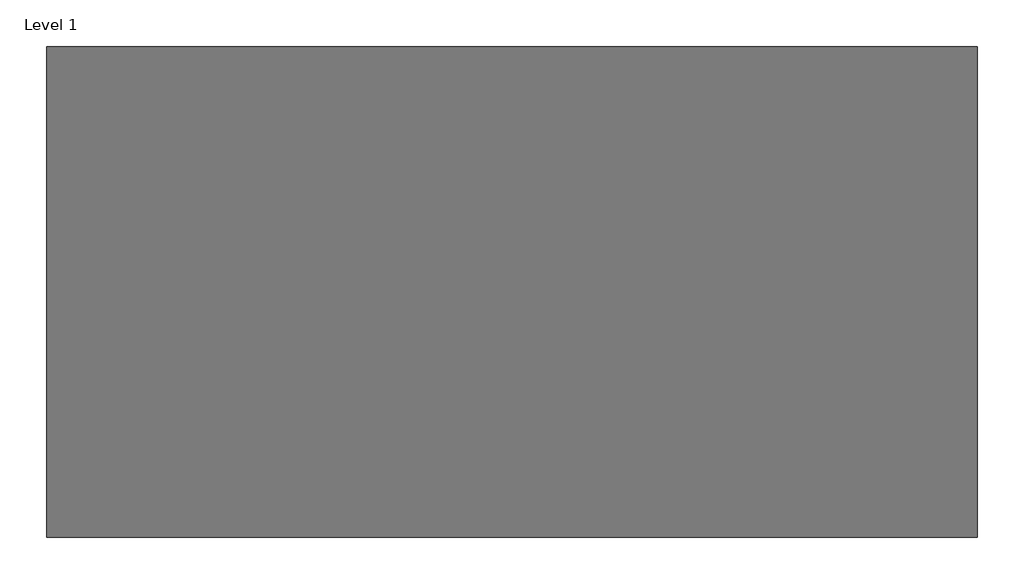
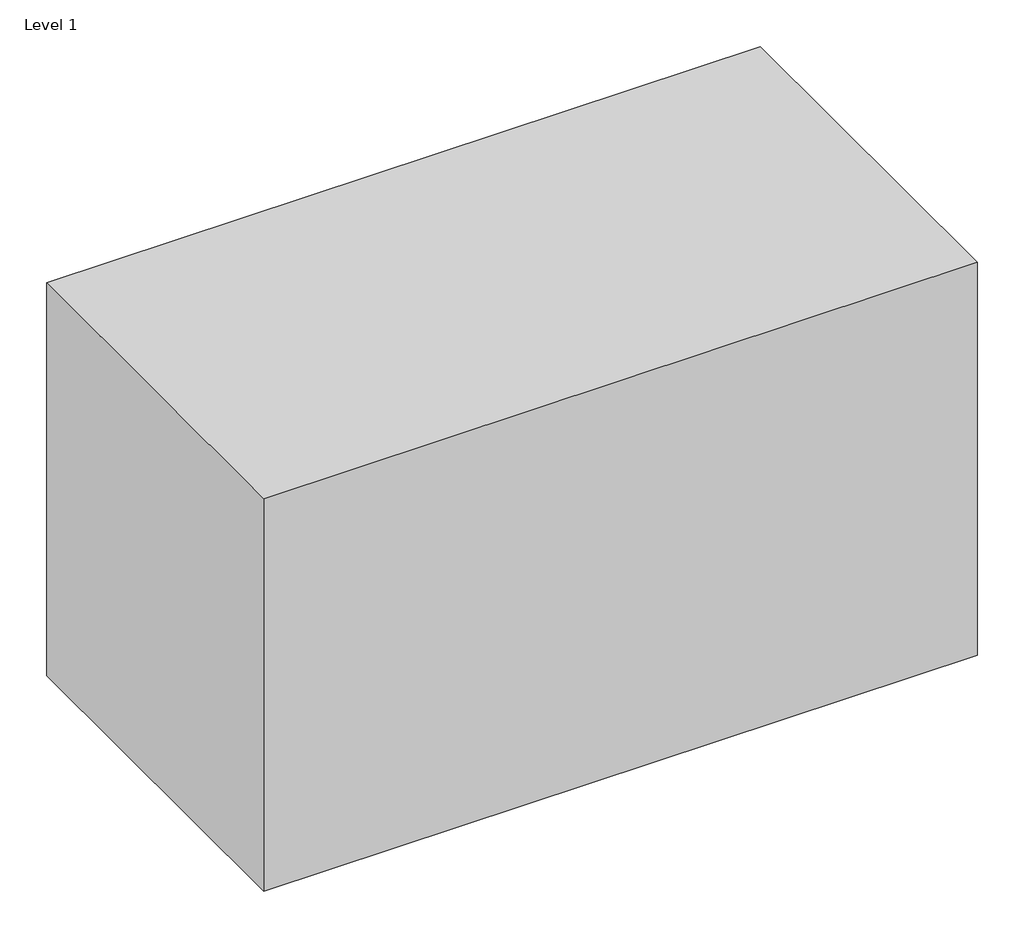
# One storey: 1 proxy.
"""IFC4 building model written with IfcOpenShell, lengths in millimetres."""

from ifc_helpers import new_model, si_unit, origin, origin_with_axes, place, context, project, spatial, polyline, outline, extrude, element, save

model = new_model("IFC4")

# Units and contexts
model_context = context("Model", 3, world=origin())
ifc_project = project(units=[si_unit("LENGTHUNIT", "METRE", prefix="MILLI")], contexts=[model_context])

# Site, building, storey
site = spatial("IfcSite", under=ifc_project)
building = spatial("IfcBuilding", under=site)
storey = spatial("IfcBuildingStorey", under=building, Name="Level 1", Elevation=0.0)

# Proxy
placement = place(None, origin())
element("IfcBuildingElementProxy", 1, Name="Mass 1 : Mass 1", ObjectType="Mass 1 : Mass 1", at=placement, inside=storey, context=model_context, shape_type="SweptSolid", body=[
    extrude(outline(polyline([(10243.86091, 8334.5716666), (-2380.5660902, 8334.5716666), (-2380.5660902, 14987.0199662), (10243.86091, 14987.0199662), (10243.86091, 8334.5716666)])), origin_with_axes(), (0.0, 0.0, 1.0), 7344.4900901),
])

save(model, "model.ifc")
